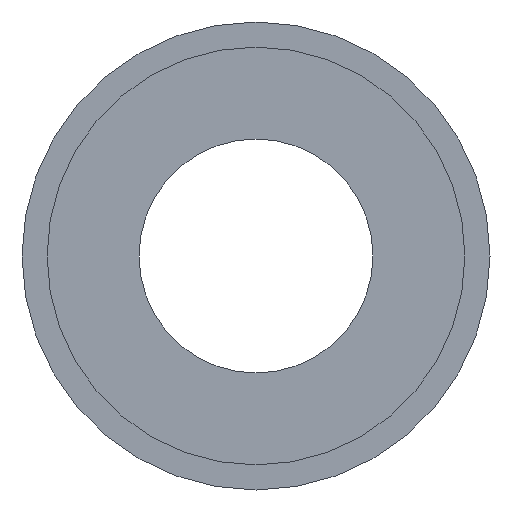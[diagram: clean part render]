
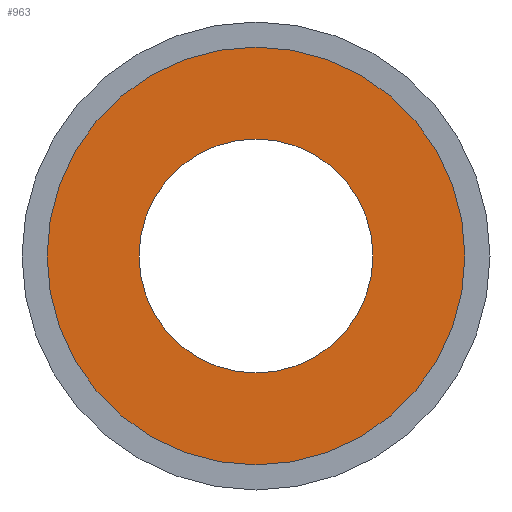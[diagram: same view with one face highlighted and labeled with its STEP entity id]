
A CAD part, front view. The second image highlights one B-rep face of the part: STEP entity #963.
In plain terms, the highlighted planar face has unit normal (0, -1, 0).
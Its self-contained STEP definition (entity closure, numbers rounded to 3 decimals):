
#18 = FACE_BOUND ( 'NONE', #2273, .T. ) ;
#208 = EDGE_CURVE ( 'NONE', #1764, #675, #1022, .T. ) ;
#323 = ORIENTED_EDGE ( 'NONE', *, *, #614, .T. ) ;
#400 = CARTESIAN_POINT ( 'NONE',  ( 0., -16.5, 37.5 ) ) ;
#432 = CARTESIAN_POINT ( 'NONE',  ( 0., -16.5, 0. ) ) ;
#614 = EDGE_CURVE ( 'NONE', #788, #1993, #1534, .T. ) ;
#675 = VERTEX_POINT ( 'NONE', #2429 ) ;
#720 = DIRECTION ( 'NONE',  ( 0., 0., -1. ) ) ;
#785 = AXIS2_PLACEMENT_3D ( 'NONE', #2099, #789, #2852 ) ;
#788 = VERTEX_POINT ( 'NONE', #2526 ) ;
#789 = DIRECTION ( 'NONE',  ( 0., -1., 0. ) ) ;
#963 = ADVANCED_FACE ( 'NONE', ( #18, #3202 ), #2559, .F. ) ;
#1001 = DIRECTION ( 'NONE',  ( 0., -1., 0. ) ) ;
#1022 = CIRCLE ( 'NONE', #1968, 21. ) ;
#1030 = EDGE_CURVE ( 'NONE', #675, #1764, #2630, .T. ) ;
#1036 = CIRCLE ( 'NONE', #1167, 37.5 ) ;
#1146 = CARTESIAN_POINT ( 'NONE',  ( 0., -16.5, -21. ) ) ;
#1167 = AXIS2_PLACEMENT_3D ( 'NONE', #432, #1001, #720 ) ;
#1219 = EDGE_CURVE ( 'NONE', #1993, #788, #1036, .T. ) ;
#1277 = DIRECTION ( 'NONE',  ( 0., 1., 0. ) ) ;
#1534 = CIRCLE ( 'NONE', #2015, 37.5 ) ;
#1689 = ORIENTED_EDGE ( 'NONE', *, *, #1030, .F. ) ;
#1764 = VERTEX_POINT ( 'NONE', #1146 ) ;
#1794 = CARTESIAN_POINT ( 'NONE',  ( 0., -16.5, 21. ) ) ;
#1968 = AXIS2_PLACEMENT_3D ( 'NONE', #2254, #2469, #1992 ) ;
#1992 = DIRECTION ( 'NONE',  ( 0., 0., -1. ) ) ;
#1993 = VERTEX_POINT ( 'NONE', #400 ) ;
#2015 = AXIS2_PLACEMENT_3D ( 'NONE', #2668, #2903, #2891 ) ;
#2099 = CARTESIAN_POINT ( 'NONE',  ( 0., -16.5, 0. ) ) ;
#2172 = ORIENTED_EDGE ( 'NONE', *, *, #1219, .T. ) ;
#2254 = CARTESIAN_POINT ( 'NONE',  ( 0., -16.5, 0. ) ) ;
#2273 = EDGE_LOOP ( 'NONE', ( #2334, #1689 ) ) ;
#2308 = DIRECTION ( 'NONE',  ( 0., 0., 1. ) ) ;
#2334 = ORIENTED_EDGE ( 'NONE', *, *, #208, .F. ) ;
#2429 = CARTESIAN_POINT ( 'NONE',  ( 0., -16.5, 21. ) ) ;
#2430 = EDGE_LOOP ( 'NONE', ( #323, #2172 ) ) ;
#2469 = DIRECTION ( 'NONE',  ( 0., -1., 0. ) ) ;
#2526 = CARTESIAN_POINT ( 'NONE',  ( 0., -16.5, -37.5 ) ) ;
#2559 = PLANE ( 'NONE',  #2680 ) ;
#2630 = CIRCLE ( 'NONE', #785, 21. ) ;
#2668 = CARTESIAN_POINT ( 'NONE',  ( 0., -16.5, 0. ) ) ;
#2680 = AXIS2_PLACEMENT_3D ( 'NONE', #1794, #1277, #2308 ) ;
#2852 = DIRECTION ( 'NONE',  ( 0., 0., -1. ) ) ;
#2891 = DIRECTION ( 'NONE',  ( 0., 0., -1. ) ) ;
#2903 = DIRECTION ( 'NONE',  ( 0., -1., 0. ) ) ;
#3202 = FACE_OUTER_BOUND ( 'NONE', #2430, .T. ) ;
